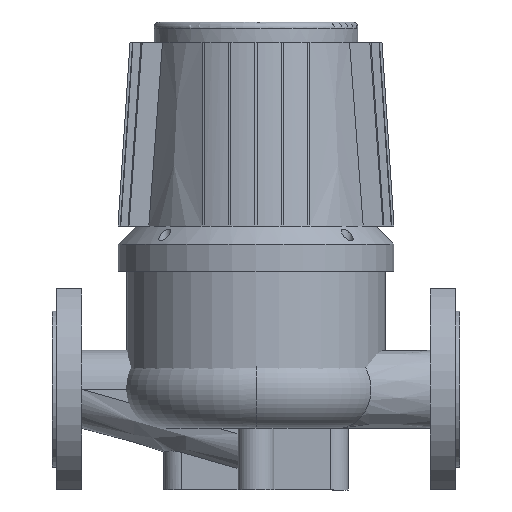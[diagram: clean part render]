
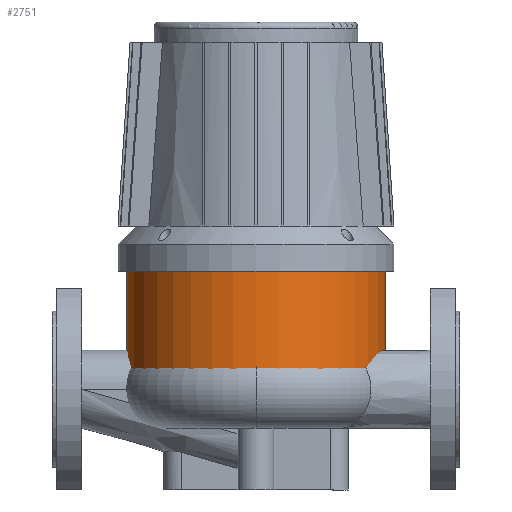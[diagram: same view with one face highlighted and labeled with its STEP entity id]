
A CAD part, front view. The second image highlights one B-rep face of the part: STEP entity #2751.
In plain terms, the highlighted cylindrical face has radius 108 mm (diameter 216 mm), a partial arc.
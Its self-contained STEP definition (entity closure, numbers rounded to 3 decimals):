
#299=FACE_OUTER_BOUND('',#474,.T.);
#474=EDGE_LOOP('',(#1870,#1871,#1872,#1873));
#657=LINE('',#3938,#866);
#658=LINE('',#3941,#867);
#866=VECTOR('',#3213,304.8);
#867=VECTOR('',#3216,304.8);
#1077=CIRCLE('',#2954,108.);
#1078=CIRCLE('',#2955,108.);
#1174=VERTEX_POINT('',#3934);
#1175=VERTEX_POINT('',#3935);
#1176=VERTEX_POINT('',#3937);
#1177=VERTEX_POINT('',#3939);
#1440=EDGE_CURVE('',#1176,#1174,#657,.T.);
#1442=EDGE_CURVE('',#1175,#1177,#658,.T.);
#1443=EDGE_CURVE('',#1175,#1174,#1077,.T.);
#1444=EDGE_CURVE('',#1176,#1177,#1078,.T.);
#1870=ORIENTED_EDGE('',*,*,#1443,.F.);
#1871=ORIENTED_EDGE('',*,*,#1442,.T.);
#1872=ORIENTED_EDGE('',*,*,#1444,.F.);
#1873=ORIENTED_EDGE('',*,*,#1440,.T.);
#2721=CYLINDRICAL_SURFACE('',#2953,108.);
#2751=ADVANCED_FACE('',(#299),#2721,.T.);
#2953=AXIS2_PLACEMENT_3D('',#3942,#3217,#3218);
#2954=AXIS2_PLACEMENT_3D('',#3943,#3219,#3220);
#2955=AXIS2_PLACEMENT_3D('',#3944,#3221,#3222);
#3213=DIRECTION('',(0.,0.,1.));
#3216=DIRECTION('',(0.,0.,-1.));
#3217=DIRECTION('center_axis',(0.,0.,1.));
#3218=DIRECTION('ref_axis',(1.,0.,0.));
#3219=DIRECTION('center_axis',(0.,0.,1.));
#3220=DIRECTION('ref_axis',(1.,0.,0.));
#3221=DIRECTION('center_axis',(0.,0.,-1.));
#3222=DIRECTION('ref_axis',(1.,0.,0.));
#3934=CARTESIAN_POINT('',(30976.617,-38981.239,98.5));
#3935=CARTESIAN_POINT('',(30760.617,-38981.239,98.5));
#3937=CARTESIAN_POINT('',(30976.617,-38981.239,0.));
#3938=CARTESIAN_POINT('',(30976.617,-38981.239,0.));
#3939=CARTESIAN_POINT('',(30760.617,-38981.239,0.));
#3941=CARTESIAN_POINT('',(30760.617,-38981.239,98.5));
#3942=CARTESIAN_POINT('Origin',(30868.617,-38981.239,0.));
#3943=CARTESIAN_POINT('Origin',(30868.617,-38981.239,98.5));
#3944=CARTESIAN_POINT('Origin',(30868.617,-38981.239,0.));
